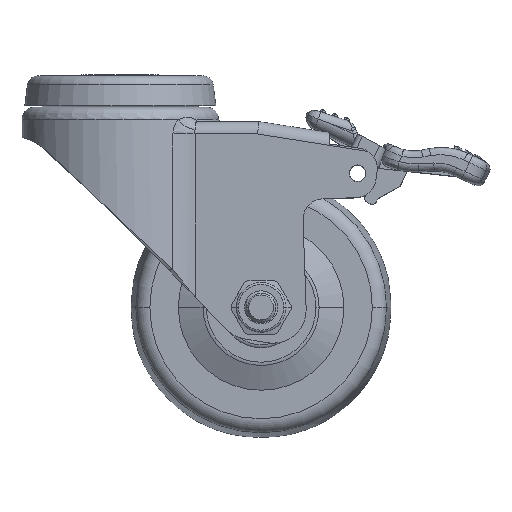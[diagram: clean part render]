
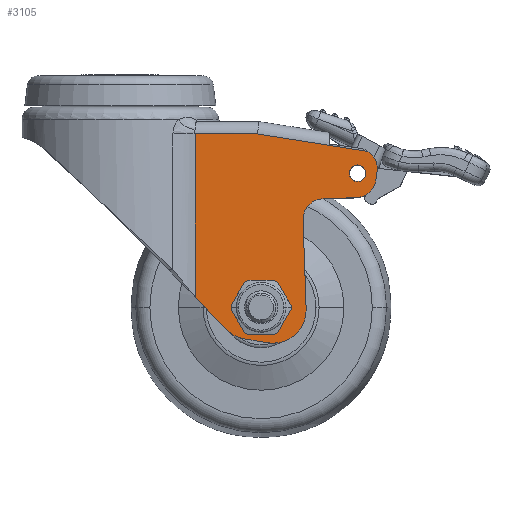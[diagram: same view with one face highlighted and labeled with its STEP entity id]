
A CAD part, top view. The second image highlights one B-rep face of the part: STEP entity #3105.
In plain terms, the highlighted planar face has unit normal (0, 0, 1).
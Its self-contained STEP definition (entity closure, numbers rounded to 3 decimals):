
#872=CARTESIAN_POINT('',(30.95,-59.119,18.5));
#873=DIRECTION('',(0.,0.,-1.));
#874=DIRECTION('',(-0.165,-0.986,0.));
#875=AXIS2_PLACEMENT_3D('',#872,#873,#874);
#877=DIRECTION('',(-0.698,0.716,0.));
#878=VECTOR('',#877,11.257);
#879=CARTESIAN_POINT('',(25.939,-64.007,18.5));
#880=LINE('',#879,#878);
#881=DIRECTION('',(0.,-1.,0.));
#882=VECTOR('',#881,39.398);
#883=CARTESIAN_POINT('',(18.078,-16.55,18.5));
#884=LINE('',#883,#882);
#885=DIRECTION('',(-1.,0.,0.));
#886=VECTOR('',#885,15.093);
#887=CARTESIAN_POINT('',(33.171,-16.55,18.5));
#888=LINE('',#887,#886);
#889=DIRECTION('',(-0.988,0.156,0.));
#890=VECTOR('',#889,26.972);
#891=CARTESIAN_POINT('',(59.811,-20.769,18.5));
#892=LINE('',#891,#890);
#893=CARTESIAN_POINT('',(57.078,-24.956,18.5));
#894=DIRECTION('',(0.,0.,1.));
#895=DIRECTION('',(0.99,-0.139,0.));
#896=AXIS2_PLACEMENT_3D('',#893,#894,#895);
#898=DIRECTION('',(-0.139,-0.99,0.));
#899=VECTOR('',#898,2.);
#900=CARTESIAN_POINT('',(62.03,-25.652,18.5));
#901=LINE('',#900,#899);
#902=CARTESIAN_POINT('',(56.8,-26.937,18.5));
#903=DIRECTION('',(0.,0.,1.));
#904=DIRECTION('',(0.035,-0.999,0.));
#905=AXIS2_PLACEMENT_3D('',#902,#903,#904);
#907=DIRECTION('',(-0.999,-0.035,0.));
#908=VECTOR('',#907,8.026);
#909=CARTESIAN_POINT('',(56.974,-31.934,18.5));
#910=LINE('',#909,#908);
#911=CARTESIAN_POINT('',(49.128,-37.211,18.5));
#912=DIRECTION('',(0.,0.,1.));
#913=DIRECTION('',(-0.035,0.999,0.));
#914=AXIS2_PLACEMENT_3D('',#911,#912,#913);
#916=DIRECTION('',(0.035,-0.999,0.));
#917=VECTOR('',#916,21.656);
#918=CARTESIAN_POINT('',(44.131,-37.386,18.5));
#919=LINE('',#918,#917);
#920=CARTESIAN_POINT('',(36.888,-59.098,18.5));
#921=DIRECTION('',(0.,0.,1.));
#922=DIRECTION('',(-0.165,-0.986,0.));
#923=AXIS2_PLACEMENT_3D('',#920,#921,#922);
#925=DIRECTION('',(-0.986,0.165,0.));
#926=VECTOR('',#925,5.853);
#927=CARTESIAN_POINT('',(35.567,-66.989,18.5));
#928=LINE('',#927,#926);
#929=CARTESIAN_POINT('',(34.,-58.45,18.5));
#930=DIRECTION('',(0.,0.,1.));
#931=DIRECTION('',(1.,0.,0.));
#932=AXIS2_PLACEMENT_3D('',#929,#930,#931);
#934=CARTESIAN_POINT('',(34.,-58.45,18.5));
#935=DIRECTION('',(0.,0.,1.));
#936=DIRECTION('',(-1.,0.,0.));
#937=AXIS2_PLACEMENT_3D('',#934,#935,#936);
#939=CARTESIAN_POINT('',(57.3,-26.05,18.5));
#940=DIRECTION('',(0.,0.,1.));
#941=DIRECTION('',(1.,0.,0.));
#942=AXIS2_PLACEMENT_3D('',#939,#940,#941);
#944=CARTESIAN_POINT('',(57.3,-26.05,18.5));
#945=DIRECTION('',(0.,0.,1.));
#946=DIRECTION('',(-1.,0.,0.));
#947=AXIS2_PLACEMENT_3D('',#944,#945,#946);
#1548=CARTESIAN_POINT('',(33.171,-16.55,18.5));
#1549=CARTESIAN_POINT('',(18.078,-16.55,18.5));
#1550=VERTEX_POINT('',#1548);
#1551=VERTEX_POINT('',#1549);
#1614=CARTESIAN_POINT('',(62.03,-25.652,18.5));
#1615=CARTESIAN_POINT('',(59.811,-20.769,18.5));
#1616=VERTEX_POINT('',#1614);
#1617=VERTEX_POINT('',#1615);
#1618=CARTESIAN_POINT('',(61.751,-27.633,18.5));
#1619=VERTEX_POINT('',#1618);
#1620=CARTESIAN_POINT('',(56.974,-31.934,18.5));
#1621=VERTEX_POINT('',#1620);
#1622=CARTESIAN_POINT('',(48.954,-32.214,18.5));
#1623=VERTEX_POINT('',#1622);
#1624=CARTESIAN_POINT('',(44.131,-37.386,18.5));
#1625=VERTEX_POINT('',#1624);
#1626=CARTESIAN_POINT('',(44.887,-59.029,18.5));
#1627=VERTEX_POINT('',#1626);
#1628=CARTESIAN_POINT('',(35.567,-66.989,18.5));
#1629=VERTEX_POINT('',#1628);
#1688=CARTESIAN_POINT('',(29.794,-66.023,18.5));
#1689=CARTESIAN_POINT('',(25.939,-64.007,18.5));
#1690=VERTEX_POINT('',#1688);
#1691=VERTEX_POINT('',#1689);
#1692=CARTESIAN_POINT('',(18.078,-55.948,18.5));
#1693=VERTEX_POINT('',#1692);
#1738=CARTESIAN_POINT('',(38.05,-58.45,18.5));
#1739=CARTESIAN_POINT('',(29.95,-58.45,18.5));
#1740=VERTEX_POINT('',#1738);
#1741=VERTEX_POINT('',#1739);
#1742=CARTESIAN_POINT('',(59.3,-26.05,18.5));
#1743=CARTESIAN_POINT('',(55.3,-26.05,18.5));
#1744=VERTEX_POINT('',#1742);
#1745=VERTEX_POINT('',#1743);
#3063=CARTESIAN_POINT('',(0.,0.,18.5));
#3064=DIRECTION('',(0.,0.,1.));
#3065=DIRECTION('',(1.,0.,0.));
#3066=AXIS2_PLACEMENT_3D('',#3063,#3064,#3065);
#3067=PLANE('',#3066);
#3068=ORIENTED_EDGE('',*,*,#3053,.T.);
#3070=ORIENTED_EDGE('',*,*,#3069,.T.);
#3071=ORIENTED_EDGE('',*,*,#1947,.F.);
#3073=ORIENTED_EDGE('',*,*,#3072,.F.);
#3074=ORIENTED_EDGE('',*,*,#2922,.F.);
#3076=ORIENTED_EDGE('',*,*,#3075,.F.);
#3078=ORIENTED_EDGE('',*,*,#3077,.T.);
#3080=ORIENTED_EDGE('',*,*,#3079,.F.);
#3082=ORIENTED_EDGE('',*,*,#3081,.T.);
#3084=ORIENTED_EDGE('',*,*,#3083,.T.);
#3086=ORIENTED_EDGE('',*,*,#3085,.T.);
#3088=ORIENTED_EDGE('',*,*,#3087,.F.);
#3090=ORIENTED_EDGE('',*,*,#3089,.T.);
#3091=EDGE_LOOP('',(#3068,#3070,#3071,#3073,#3074,#3076,#3078,#3080,#3082,#3084,
#3086,#3088,#3090));
#3092=FACE_OUTER_BOUND('',#3091,.F.);
#3094=ORIENTED_EDGE('',*,*,#3093,.T.);
#3096=ORIENTED_EDGE('',*,*,#3095,.T.);
#3097=EDGE_LOOP('',(#3094,#3096));
#3098=FACE_BOUND('',#3097,.F.);
#3100=ORIENTED_EDGE('',*,*,#3099,.T.);
#3102=ORIENTED_EDGE('',*,*,#3101,.T.);
#3103=EDGE_LOOP('',(#3100,#3102));
#3104=FACE_BOUND('',#3103,.F.);
#876=CIRCLE('',#875,7.);
#897=CIRCLE('',#896,5.);
#906=CIRCLE('',#905,5.);
#915=CIRCLE('',#914,5.);
#924=CIRCLE('',#923,8.);
#933=CIRCLE('',#932,4.05);
#938=CIRCLE('',#937,4.05);
#943=CIRCLE('',#942,2.);
#948=CIRCLE('',#947,2.);
#1947=EDGE_CURVE('',#1551,#1693,#884,.T.);
#2922=EDGE_CURVE('',#1617,#1550,#892,.T.);
#3053=EDGE_CURVE('',#1690,#1691,#876,.T.);
#3069=EDGE_CURVE('',#1691,#1693,#880,.T.);
#3072=EDGE_CURVE('',#1550,#1551,#888,.T.);
#3075=EDGE_CURVE('',#1616,#1617,#897,.T.);
#3077=EDGE_CURVE('',#1616,#1619,#901,.T.);
#3079=EDGE_CURVE('',#1621,#1619,#906,.T.);
#3081=EDGE_CURVE('',#1621,#1623,#910,.T.);
#3083=EDGE_CURVE('',#1623,#1625,#915,.T.);
#3085=EDGE_CURVE('',#1625,#1627,#919,.T.);
#3087=EDGE_CURVE('',#1629,#1627,#924,.T.);
#3089=EDGE_CURVE('',#1629,#1690,#928,.T.);
#3093=EDGE_CURVE('',#1740,#1741,#933,.T.);
#3095=EDGE_CURVE('',#1741,#1740,#938,.T.);
#3099=EDGE_CURVE('',#1744,#1745,#943,.T.);
#3101=EDGE_CURVE('',#1745,#1744,#948,.T.);
#3105=ADVANCED_FACE('',(#3092,#3098,#3104),#3067,.T.);
